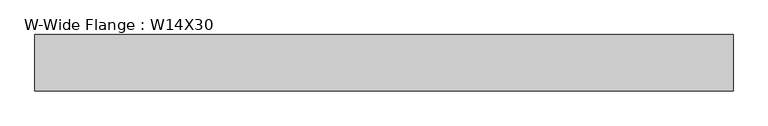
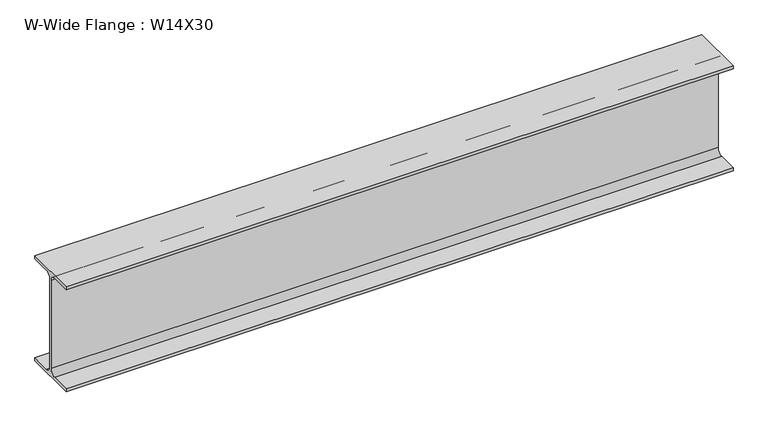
"""IFC4 building model written with IfcOpenShell, lengths in millimetres: beam geometry, W-Wide Flange : W14X30."""

from ifc_helpers import new_model, si_unit, point, frame, frame_2d, origin, place, context, project, spatial, polyline, circle_curve, trimmed, segment, composite_curve, outline, extrude, source, transform, mapped, element, save


def w_wide_flange_w14x30_84f72a9a(model_context):
    return source(origin(), model_context, "Body", "SweptSolid", [
        extrude(outline(composite_curve([segment(polyline([(85.4769531, -165.9433594), (85.4769531, -175.7660156), (-85.4769531, -175.7660156), (-85.4769531, -165.9433594), (-22.1753906, -165.9433594)]), True, "CONTINUOUS"), segment(trimmed(circle_curve(frame_2d((-22.1753906, -147.1910156)), 18.7523438), [point((-22.1753906, -165.9433594))], [point((-3.4230469, -147.1910156))], True, "CARTESIAN"), True, "CONTINUOUS"), segment(polyline([(-3.4230469, -147.1910156), (-3.4230469, 147.1910156)]), True, "CONTINUOUS"), segment(trimmed(circle_curve(frame_2d((-22.1753906, 147.1910156)), 18.7523438), [point((-3.4230469, 147.1910156))], [point((-22.1753906, 165.9433594))], True, "CARTESIAN"), True, "CONTINUOUS"), segment(polyline([(-22.1753906, 165.9433594), (-85.4769531, 165.9433594), (-85.4769531, 175.7660156), (85.4769531, 175.7660156), (85.4769531, 165.9433594), (22.1753906, 165.9433594)]), True, "CONTINUOUS"), segment(trimmed(circle_curve(frame_2d((22.1753906, 147.1910156)), 18.7523438), [point((22.1753906, 165.9433594))], [point((3.4230469, 147.1910156))], True, "CARTESIAN"), True, "CONTINUOUS"), segment(polyline([(3.4230469, 147.1910156), (3.4230469, -147.1910156)]), True, "CONTINUOUS"), segment(trimmed(circle_curve(frame_2d((22.1753906, -147.1910156)), 18.7523438), [point((3.4230469, -147.1910156))], [point((22.1753906, -165.9433594))], True, "CARTESIAN"), True, "CONTINUOUS"), segment(polyline([(22.1753906, -165.9433594), (85.4769531, -165.9433594)]), True, "CONTINUOUS")], self_intersect=False)), frame((-1067.6019194, 0.0, 0.0), z_axis=(1.0, 0.0, 0.0), x_axis=(0.0, 1.0, 0.0)), (0.0, 0.0, 1.0), 2112.716978),
    ])


if __name__ == "__main__":
    model = new_model("IFC4")
    model_context = context("Model", 3, world=origin())
    ifc_project = project(units=[si_unit("LENGTHUNIT", "METRE", prefix="MILLI")], contexts=[model_context])
    site = spatial("IfcSite", under=ifc_project)
    building = spatial("IfcBuilding", under=site)
    placement = place(None, origin())
    w_wide_flange_w14x30_shape = w_wide_flange_w14x30_84f72a9a(model_context)
    element("IfcBeam", 1, ObjectType="W-Wide Flange : W14X30", at=placement, inside=building, context=model_context, shape_type="MappedRepresentation", body=[
        mapped(w_wide_flange_w14x30_shape, transform((0.0, 0.0, 0.0), x_axis=(1.0, 0.0, 0.0), y_axis=(0.0, 1.0, 0.0), z_axis=(0.0, 0.0, 1.0))),
    ])
    save(model, "model.ifc")
